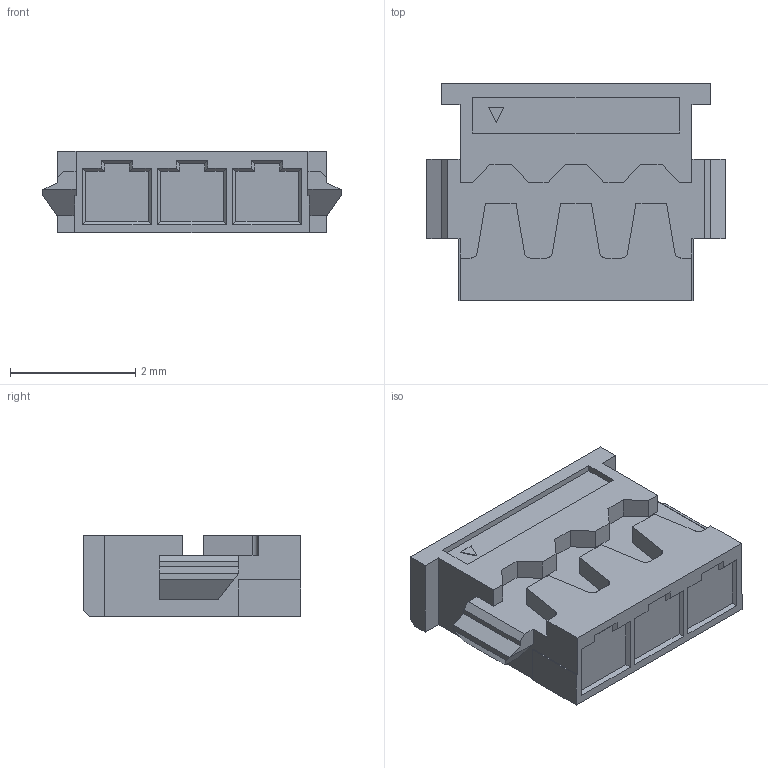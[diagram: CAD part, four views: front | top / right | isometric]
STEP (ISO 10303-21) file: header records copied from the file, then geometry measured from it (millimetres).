
FILE_DESCRIPTION(('STEP AP242'),'1');
FILE_NAME('0781720003.stp','2024-11-14T03:42:17',('TraceParts'),('TraceParts S.A.'),'Spatial InterOp 3D',' ',' ');
FILE_SCHEMA(('AP242_MANAGED_MODEL_BASED_3D_ENGINEERING_MIM_LF {1 0 10303 442 1 1 4}'));
Length unit declared in the file: millimetre
Products named in the file (1): 0781720003
Bounding box: 4.76 x 3.47 x 1.3 mm (x, y, z)
Volume: 16 mm3; surface area: 54.3 mm2
Topology: 1 solids, 1 shells, 132 faces, 361 edges, 236 vertices
Faces by surface type: plane 126, cylinder 6
Entity records: 4110 total; most frequent: CARTESIAN_POINT 730, ORIENTED_EDGE 722, DIRECTION 639, EDGE_CURVE 361, LINE 349, VECTOR 349, VERTEX_POINT 236, AXIS2_PLACEMENT_3D 145
